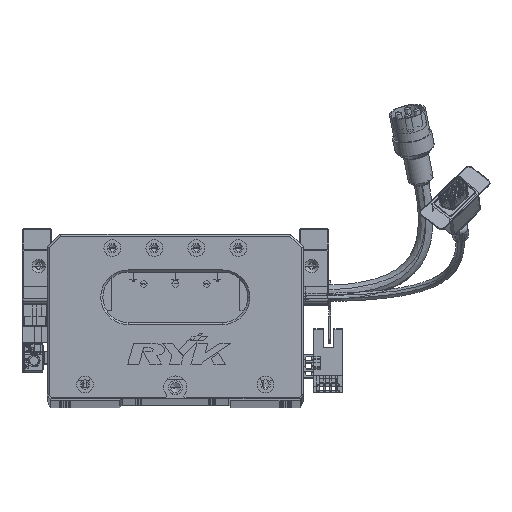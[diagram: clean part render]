
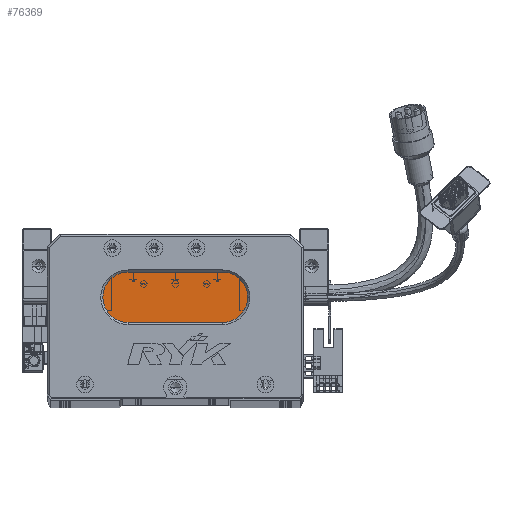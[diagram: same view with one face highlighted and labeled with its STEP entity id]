
A CAD part, top view. The second image highlights one B-rep face of the part: STEP entity #76369.
In plain terms, the highlighted planar face has unit normal (0, 0, 1) as drawn and (0, 0, -1) by its records, which use the part's own axes.
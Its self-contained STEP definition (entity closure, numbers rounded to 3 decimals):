
#1171 = VERTEX_POINT ( 'NONE', #51606 ) ;
#2243 = AXIS2_PLACEMENT_3D ( 'NONE', #90236, #98356, #66171 ) ;
#6978 = CARTESIAN_POINT ( 'NONE',  ( 83.5, 60., 13. ) ) ;
#9463 = CIRCLE ( 'NONE', #19008, 12. ) ;
#19008 = AXIS2_PLACEMENT_3D ( 'NONE', #102637, #21608, #37589 ) ;
#19524 = DIRECTION ( 'NONE',  ( 0., 0., -1. ) ) ;
#21117 = LINE ( 'NONE', #77092, #40169 ) ;
#21608 = DIRECTION ( 'NONE',  ( 0., 0., -1. ) ) ;
#22232 = ORIENTED_EDGE ( 'NONE', *, *, #71500, .T. ) ;
#26260 = EDGE_LOOP ( 'NONE', ( #22232, #45505, #64540, #58206, #49263 ) ) ;
#31289 = VERTEX_POINT ( 'NONE', #76890 ) ;
#31566 = VERTEX_POINT ( 'NONE', #72876 ) ;
#34261 = AXIS2_PLACEMENT_3D ( 'NONE', #68027, #19524, #50407 ) ;
#35514 = PLANE ( 'NONE',  #34261 ) ;
#36500 = DIRECTION ( 'NONE',  ( -1., 0., 0. ) ) ;
#36645 = VECTOR ( 'NONE', #97143, 1000. ) ;
#37589 = DIRECTION ( 'NONE',  ( -1., 0., 0. ) ) ;
#40169 = VECTOR ( 'NONE', #53767, 1000. ) ;
#44327 = DIRECTION ( 'NONE',  ( 0., 0., -1. ) ) ;
#45187 = EDGE_CURVE ( 'NONE', #31289, #53053, #21117, .T. ) ;
#45505 = ORIENTED_EDGE ( 'NONE', *, *, #57153, .T. ) ;
#46840 = LINE ( 'NONE', #89745, #36645 ) ;
#49263 = ORIENTED_EDGE ( 'NONE', *, *, #45187, .T. ) ;
#50407 = DIRECTION ( 'NONE',  ( -1., 0., 0. ) ) ;
#51606 = CARTESIAN_POINT ( 'NONE',  ( 38.5, 36., 13. ) ) ;
#53053 = VERTEX_POINT ( 'NONE', #6978 ) ;
#53767 = DIRECTION ( 'NONE',  ( 1., 0., 0. ) ) ;
#54398 = CIRCLE ( 'NONE', #86904, 12. ) ;
#57153 = EDGE_CURVE ( 'NONE', #31566, #1171, #46840, .T. ) ;
#58206 = ORIENTED_EDGE ( 'NONE', *, *, #96393, .T. ) ;
#64540 = ORIENTED_EDGE ( 'NONE', *, *, #83063, .T. ) ;
#66171 = DIRECTION ( 'NONE',  ( -1., 0., 0. ) ) ;
#68027 = CARTESIAN_POINT ( 'NONE',  ( 83.5, 48., 13. ) ) ;
#71500 = EDGE_CURVE ( 'NONE', #53053, #31566, #9463, .T. ) ;
#72876 = CARTESIAN_POINT ( 'NONE',  ( 83.5, 36., 13. ) ) ;
#76369 = ADVANCED_FACE ( 'NONE', ( #103869 ), #35514, .T. ) ;
#76890 = CARTESIAN_POINT ( 'NONE',  ( 38.5, 60., 13. ) ) ;
#77092 = CARTESIAN_POINT ( 'NONE',  ( 83.5, 60., 13. ) ) ;
#78871 = CARTESIAN_POINT ( 'NONE',  ( 26.5, 48., 13. ) ) ;
#82572 = CIRCLE ( 'NONE', #2243, 12. ) ;
#83063 = EDGE_CURVE ( 'NONE', #1171, #94496, #54398, .T. ) ;
#86904 = AXIS2_PLACEMENT_3D ( 'NONE', #92371, #44327, #36500 ) ;
#89745 = CARTESIAN_POINT ( 'NONE',  ( 83.5, 36., 13. ) ) ;
#90236 = CARTESIAN_POINT ( 'NONE',  ( 38.5, 48., 13. ) ) ;
#92371 = CARTESIAN_POINT ( 'NONE',  ( 38.5, 48., 13. ) ) ;
#94496 = VERTEX_POINT ( 'NONE', #78871 ) ;
#96393 = EDGE_CURVE ( 'NONE', #94496, #31289, #82572, .T. ) ;
#97143 = DIRECTION ( 'NONE',  ( -1., 0., 0. ) ) ;
#98356 = DIRECTION ( 'NONE',  ( 0., 0., -1. ) ) ;
#102637 = CARTESIAN_POINT ( 'NONE',  ( 83.5, 48., 13. ) ) ;
#103869 = FACE_OUTER_BOUND ( 'NONE', #26260, .T. ) ;
